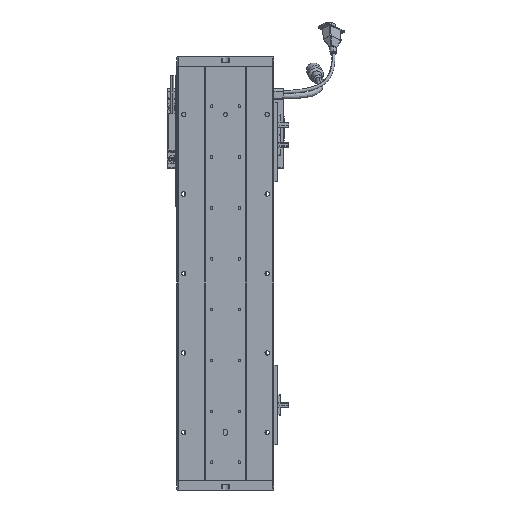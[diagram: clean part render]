
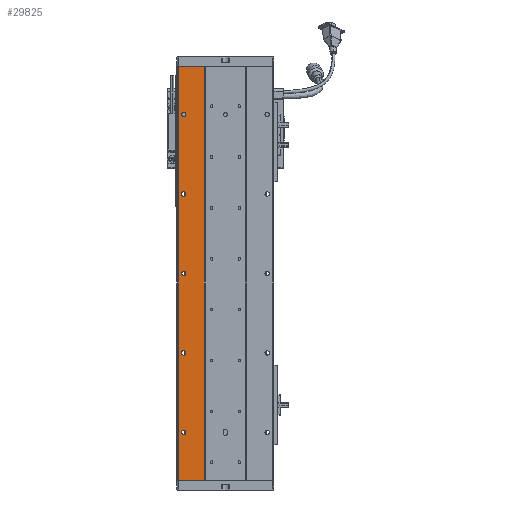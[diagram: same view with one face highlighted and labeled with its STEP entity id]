
A CAD part, front view. The second image highlights one B-rep face of the part: STEP entity #29825.
In plain terms, the highlighted planar face has unit normal (0, -1, 0).
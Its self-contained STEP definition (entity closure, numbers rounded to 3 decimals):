
#260 = VERTEX_POINT ( 'NONE', #36756 ) ;
#924 = DIRECTION ( 'NONE',  ( 0., 1., 0. ) ) ;
#1519 = EDGE_LOOP ( 'NONE', ( #56521, #51536, #33809, #31506 ) ) ;
#1694 = ORIENTED_EDGE ( 'NONE', *, *, #64757, .T. ) ;
#2532 = CARTESIAN_POINT ( 'NONE',  ( 128.625, 76.768, 521. ) ) ;
#2724 = LINE ( 'NONE', #44685, #18708 ) ;
#2744 = EDGE_CURVE ( 'NONE', #43617, #51670, #68393, .T. ) ;
#2751 = AXIS2_PLACEMENT_3D ( 'NONE', #27101, #54615, #48497 ) ;
#3612 = PLANE ( 'NONE',  #51898 ) ;
#4448 = FACE_BOUND ( 'NONE', #49283, .T. ) ;
#6059 = CARTESIAN_POINT ( 'NONE',  ( 102.625, 76.768, 260.5 ) ) ;
#6658 = EDGE_CURVE ( 'NONE', #52976, #68050, #47694, .T. ) ;
#6671 = VERTEX_POINT ( 'NONE', #51135 ) ;
#6763 = VERTEX_POINT ( 'NONE', #41025 ) ;
#6882 = AXIS2_PLACEMENT_3D ( 'NONE', #65342, #924, #43952 ) ;
#7876 = EDGE_CURVE ( 'NONE', #68050, #52976, #63623, .T. ) ;
#8007 = AXIS2_PLACEMENT_3D ( 'NONE', #6059, #59862, #21791 ) ;
#8547 = DIRECTION ( 'NONE',  ( 0., 0., 1. ) ) ;
#8832 = VERTEX_POINT ( 'NONE', #13257 ) ;
#9285 = AXIS2_PLACEMENT_3D ( 'NONE', #53850, #21593, #27010 ) ;
#10422 = CARTESIAN_POINT ( 'NONE',  ( 102.625, 76.768, 460.5 ) ) ;
#12229 = CARTESIAN_POINT ( 'NONE',  ( 102.625, 76.768, 163.25 ) ) ;
#12490 = DIRECTION ( 'NONE',  ( 0., 0., -1. ) ) ;
#12567 = DIRECTION ( 'NONE',  ( -1., 0., 0. ) ) ;
#13073 = DIRECTION ( 'NONE',  ( 0., 0., 1. ) ) ;
#13257 = CARTESIAN_POINT ( 'NONE',  ( 128.625, 76.768, 0. ) ) ;
#13535 = CARTESIAN_POINT ( 'NONE',  ( 102.625, 76.768, 60.5 ) ) ;
#14242 = CARTESIAN_POINT ( 'NONE',  ( 102.625, 76.768, 260.5 ) ) ;
#15186 = VERTEX_POINT ( 'NONE', #12229 ) ;
#15570 = CIRCLE ( 'NONE', #8007, 2.75 ) ;
#17042 = FACE_OUTER_BOUND ( 'NONE', #1519, .T. ) ;
#17592 = EDGE_CURVE ( 'NONE', #43617, #8832, #2724, .T. ) ;
#17789 = AXIS2_PLACEMENT_3D ( 'NONE', #41382, #19750, #46784 ) ;
#18164 = EDGE_CURVE ( 'NONE', #42731, #51670, #42195, .T. ) ;
#18541 = ORIENTED_EDGE ( 'NONE', *, *, #47143, .T. ) ;
#18708 = VECTOR ( 'NONE', #12490, 1000. ) ;
#19640 = DIRECTION ( 'NONE',  ( 0., 1., 0. ) ) ;
#19750 = DIRECTION ( 'NONE',  ( 0., 1., 0. ) ) ;
#20076 = CIRCLE ( 'NONE', #6882, 2.75 ) ;
#20455 = VERTEX_POINT ( 'NONE', #55724 ) ;
#20527 = CARTESIAN_POINT ( 'NONE',  ( 84.971, 76.768, 0. ) ) ;
#20697 = EDGE_LOOP ( 'NONE', ( #1694, #34023 ) ) ;
#21327 = ORIENTED_EDGE ( 'NONE', *, *, #67656, .T. ) ;
#21464 = DIRECTION ( 'NONE',  ( 0., 1., 0. ) ) ;
#21593 = DIRECTION ( 'NONE',  ( 0., 1., 0. ) ) ;
#21791 = DIRECTION ( 'NONE',  ( 0., 0., 1. ) ) ;
#21901 = DIRECTION ( 'NONE',  ( 0., 0., 1. ) ) ;
#22113 = VECTOR ( 'NONE', #12567, 1000. ) ;
#23052 = CARTESIAN_POINT ( 'NONE',  ( 0., 76.768, 0. ) ) ;
#23593 = EDGE_CURVE ( 'NONE', #6671, #15186, #52550, .T. ) ;
#23627 = CARTESIAN_POINT ( 'NONE',  ( 95.718, 76.768, 521. ) ) ;
#24547 = FACE_BOUND ( 'NONE', #20697, .T. ) ;
#26499 = VERTEX_POINT ( 'NONE', #47593 ) ;
#27010 = DIRECTION ( 'NONE',  ( 0., 0., 1. ) ) ;
#27101 = CARTESIAN_POINT ( 'NONE',  ( 102.625, 76.768, 160.5 ) ) ;
#27108 = DIRECTION ( 'NONE',  ( 0., 0., 1. ) ) ;
#27751 = AXIS2_PLACEMENT_3D ( 'NONE', #13535, #40355, #13073 ) ;
#29825 = ADVANCED_FACE ( 'NONE', ( #54124, #24547, #4448, #61621, #37242, #17042 ), #3612, .F. ) ;
#30129 = EDGE_LOOP ( 'NONE', ( #46291, #53161 ) ) ;
#31506 = ORIENTED_EDGE ( 'NONE', *, *, #18164, .F. ) ;
#32748 = CIRCLE ( 'NONE', #64768, 2.75 ) ;
#33809 = ORIENTED_EDGE ( 'NONE', *, *, #2744, .T. ) ;
#34023 = ORIENTED_EDGE ( 'NONE', *, *, #59027, .T. ) ;
#34776 = CIRCLE ( 'NONE', #17789, 2.75 ) ;
#36186 = ORIENTED_EDGE ( 'NONE', *, *, #49021, .T. ) ;
#36227 = CARTESIAN_POINT ( 'NONE',  ( 102.625, 76.768, 363.25 ) ) ;
#36333 = ORIENTED_EDGE ( 'NONE', *, *, #6658, .T. ) ;
#36483 = ORIENTED_EDGE ( 'NONE', *, *, #7876, .T. ) ;
#36756 = CARTESIAN_POINT ( 'NONE',  ( 102.625, 76.768, 463.25 ) ) ;
#37242 = FACE_BOUND ( 'NONE', #50158, .T. ) ;
#40355 = DIRECTION ( 'NONE',  ( 0., 1., 0. ) ) ;
#40886 = AXIS2_PLACEMENT_3D ( 'NONE', #10422, #21464, #27108 ) ;
#41025 = CARTESIAN_POINT ( 'NONE',  ( 102.625, 76.768, 357.75 ) ) ;
#41382 = CARTESIAN_POINT ( 'NONE',  ( 102.625, 76.768, 460.5 ) ) ;
#41934 = DIRECTION ( 'NONE',  ( 0., 1., 0. ) ) ;
#42195 = LINE ( 'NONE', #23627, #60739 ) ;
#42584 = CARTESIAN_POINT ( 'NONE',  ( 95.718, 76.768, 521. ) ) ;
#42731 = VERTEX_POINT ( 'NONE', #50105 ) ;
#42920 = LINE ( 'NONE', #23052, #48773 ) ;
#43617 = VERTEX_POINT ( 'NONE', #2532 ) ;
#43777 = EDGE_LOOP ( 'NONE', ( #36186, #18541 ) ) ;
#43952 = DIRECTION ( 'NONE',  ( 0., 0., 1. ) ) ;
#44685 = CARTESIAN_POINT ( 'NONE',  ( 128.625, 76.768, 521. ) ) ;
#45057 = DIRECTION ( 'NONE',  ( 0., 0., 1. ) ) ;
#45591 = CIRCLE ( 'NONE', #2751, 2.75 ) ;
#46291 = ORIENTED_EDGE ( 'NONE', *, *, #52886, .T. ) ;
#46617 = DIRECTION ( 'NONE',  ( 0., 0., 1. ) ) ;
#46784 = DIRECTION ( 'NONE',  ( 0., 0., 1. ) ) ;
#47059 = VERTEX_POINT ( 'NONE', #36227 ) ;
#47143 = EDGE_CURVE ( 'NONE', #20455, #260, #34776, .T. ) ;
#47593 = CARTESIAN_POINT ( 'NONE',  ( 102.625, 76.768, 257.75 ) ) ;
#47694 = CIRCLE ( 'NONE', #27751, 2.75 ) ;
#48381 = CIRCLE ( 'NONE', #69180, 2.75 ) ;
#48497 = DIRECTION ( 'NONE',  ( 0., 0., 1. ) ) ;
#48773 = VECTOR ( 'NONE', #66312, 1000. ) ;
#49021 = EDGE_CURVE ( 'NONE', #260, #20455, #69540, .T. ) ;
#49283 = EDGE_LOOP ( 'NONE', ( #36333, #36483 ) ) ;
#50105 = CARTESIAN_POINT ( 'NONE',  ( 95.718, 76.768, 0. ) ) ;
#50158 = EDGE_LOOP ( 'NONE', ( #21327, #52504 ) ) ;
#50178 = EDGE_CURVE ( 'NONE', #26499, #61224, #15570, .T. ) ;
#50330 = CARTESIAN_POINT ( 'NONE',  ( 102.625, 76.768, 63.25 ) ) ;
#51135 = CARTESIAN_POINT ( 'NONE',  ( 102.625, 76.768, 157.75 ) ) ;
#51536 = ORIENTED_EDGE ( 'NONE', *, *, #17592, .F. ) ;
#51619 = DIRECTION ( 'NONE',  ( 0., 0., 1. ) ) ;
#51670 = VERTEX_POINT ( 'NONE', #42584 ) ;
#51809 = DIRECTION ( 'NONE',  ( 0., 1., 0. ) ) ;
#51898 = AXIS2_PLACEMENT_3D ( 'NONE', #20527, #41934, #46617 ) ;
#52504 = ORIENTED_EDGE ( 'NONE', *, *, #50178, .T. ) ;
#52550 = CIRCLE ( 'NONE', #53917, 2.75 ) ;
#52886 = EDGE_CURVE ( 'NONE', #15186, #6671, #45591, .T. ) ;
#52976 = VERTEX_POINT ( 'NONE', #50330 ) ;
#53161 = ORIENTED_EDGE ( 'NONE', *, *, #23593, .T. ) ;
#53850 = CARTESIAN_POINT ( 'NONE',  ( 102.625, 76.768, 60.5 ) ) ;
#53917 = AXIS2_PLACEMENT_3D ( 'NONE', #57646, #51809, #8547 ) ;
#54124 = FACE_BOUND ( 'NONE', #43777, .T. ) ;
#54600 = CARTESIAN_POINT ( 'NONE',  ( 102.625, 76.768, 360.5 ) ) ;
#54615 = DIRECTION ( 'NONE',  ( 0., 1., 0. ) ) ;
#55595 = CARTESIAN_POINT ( 'NONE',  ( 102.625, 76.768, 57.75 ) ) ;
#55724 = CARTESIAN_POINT ( 'NONE',  ( 102.625, 76.768, 457.75 ) ) ;
#56521 = ORIENTED_EDGE ( 'NONE', *, *, #58176, .F. ) ;
#57646 = CARTESIAN_POINT ( 'NONE',  ( 102.625, 76.768, 160.5 ) ) ;
#58176 = EDGE_CURVE ( 'NONE', #8832, #42731, #42920, .T. ) ;
#59027 = EDGE_CURVE ( 'NONE', #6763, #47059, #32748, .T. ) ;
#59862 = DIRECTION ( 'NONE',  ( 0., 1., 0. ) ) ;
#60739 = VECTOR ( 'NONE', #45057, 1000. ) ;
#61224 = VERTEX_POINT ( 'NONE', #62926 ) ;
#61621 = FACE_BOUND ( 'NONE', #30129, .T. ) ;
#62926 = CARTESIAN_POINT ( 'NONE',  ( 102.625, 76.768, 263.25 ) ) ;
#63623 = CIRCLE ( 'NONE', #9285, 2.75 ) ;
#64757 = EDGE_CURVE ( 'NONE', #47059, #6763, #20076, .T. ) ;
#64768 = AXIS2_PLACEMENT_3D ( 'NONE', #54600, #65157, #21901 ) ;
#65157 = DIRECTION ( 'NONE',  ( 0., 1., 0. ) ) ;
#65342 = CARTESIAN_POINT ( 'NONE',  ( 102.625, 76.768, 360.5 ) ) ;
#66312 = DIRECTION ( 'NONE',  ( -1., 0., 0. ) ) ;
#67656 = EDGE_CURVE ( 'NONE', #61224, #26499, #48381, .T. ) ;
#68050 = VERTEX_POINT ( 'NONE', #55595 ) ;
#68393 = LINE ( 'NONE', #69095, #22113 ) ;
#69095 = CARTESIAN_POINT ( 'NONE',  ( 84.971, 76.768, 521. ) ) ;
#69180 = AXIS2_PLACEMENT_3D ( 'NONE', #14242, #19640, #51619 ) ;
#69540 = CIRCLE ( 'NONE', #40886, 2.75 ) ;
